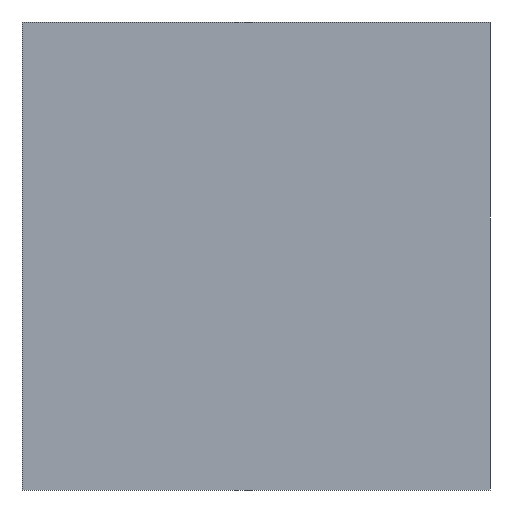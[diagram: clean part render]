
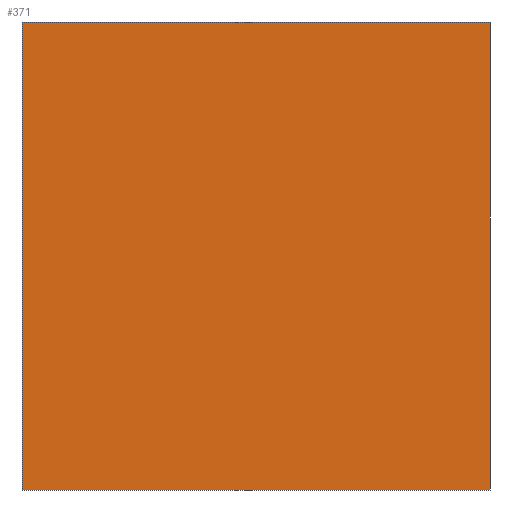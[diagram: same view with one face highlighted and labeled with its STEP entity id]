
A CAD part, front view. The second image highlights one B-rep face of the part: STEP entity #371.
In plain terms, the highlighted planar face has unit normal (0, -1, 0).
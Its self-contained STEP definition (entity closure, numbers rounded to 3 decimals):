
#161 = VERTEX_POINT( '', #432 );
#205 = EDGE_CURVE( '', #315, #299, #480, .T. );
#225 = EDGE_CURVE( '', #385, #315, #502, .T. );
#299 = VERTEX_POINT( '', #583 );
#315 = VERTEX_POINT( '', #600 );
#365 = EDGE_CURVE( '', #161, #299, #657, .T. );
#371 = ADVANCED_FACE( '', ( #666 ), #667, .T. );
#385 = VERTEX_POINT( '', #682 );
#391 = EDGE_CURVE( '', #385, #161, #689, .T. );
#432 = CARTESIAN_POINT( '', ( 37., -25., -21. ) );
#480 = LINE( '', #799, #800 );
#502 = LINE( '', #829, #830 );
#583 = CARTESIAN_POINT( '', ( -5., -25., -21. ) );
#600 = CARTESIAN_POINT( '', ( -5., -25., 21. ) );
#657 = LINE( '', #1034, #1035 );
#666 = FACE_OUTER_BOUND( '', #1044, .T. );
#667 = PLANE( '', #1045 );
#682 = CARTESIAN_POINT( '', ( 37., -25., 21. ) );
#689 = LINE( '', #1075, #1076 );
#799 = CARTESIAN_POINT( '', ( -5., -25., 21. ) );
#800 = VECTOR( '', #1145, 1. );
#829 = CARTESIAN_POINT( '', ( 37., -25., 21. ) );
#830 = VECTOR( '', #1169, 1. );
#1034 = CARTESIAN_POINT( '', ( 37., -25., -21. ) );
#1035 = VECTOR( '', #1346, 1. );
#1044 = EDGE_LOOP( '', ( #1368, #1369, #1370, #1371 ) );
#1045 = AXIS2_PLACEMENT_3D( '', #1372, #1373, #1374 );
#1075 = CARTESIAN_POINT( '', ( 37., -25., 21. ) );
#1076 = VECTOR( '', #1395, 1. );
#1145 = DIRECTION( '', ( 0., 0., -1. ) );
#1169 = DIRECTION( '', ( -1., 0., 0. ) );
#1346 = DIRECTION( '', ( -1., 0., 0. ) );
#1368 = ORIENTED_EDGE( '', *, *, #205, .T. );
#1369 = ORIENTED_EDGE( '', *, *, #365, .F. );
#1370 = ORIENTED_EDGE( '', *, *, #391, .F. );
#1371 = ORIENTED_EDGE( '', *, *, #225, .T. );
#1372 = CARTESIAN_POINT( '', ( 37., -25., 21. ) );
#1373 = DIRECTION( '', ( 0., -1., 0. ) );
#1374 = DIRECTION( '', ( 0., 0., 1. ) );
#1395 = DIRECTION( '', ( 0., 0., -1. ) );
